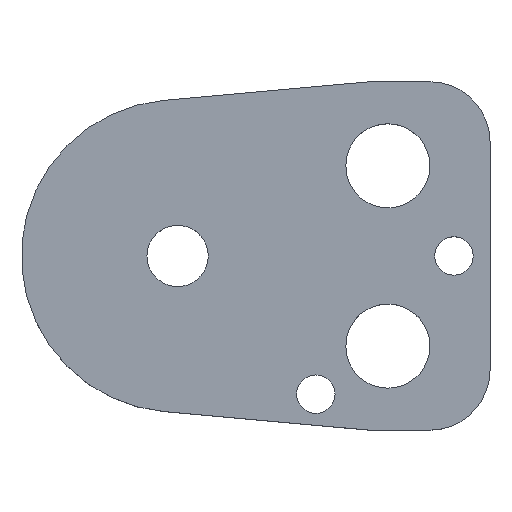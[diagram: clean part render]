
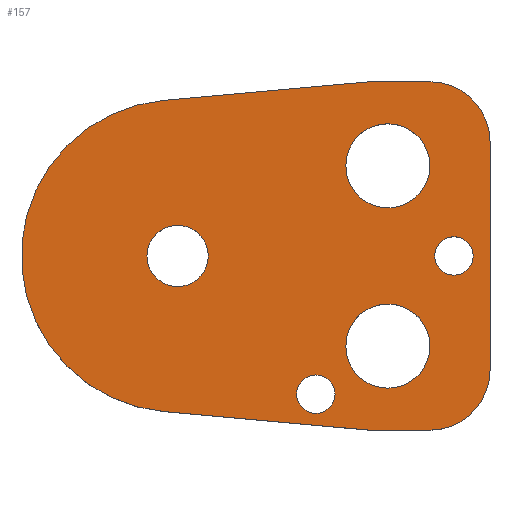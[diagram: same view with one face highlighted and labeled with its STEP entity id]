
A CAD part, top view. The second image highlights one B-rep face of the part: STEP entity #157.
In plain terms, the highlighted planar face has unit normal (0, 0, 1).
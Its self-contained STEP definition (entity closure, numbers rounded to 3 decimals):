
#103=FACE_BOUND('',#207,.T.);
#104=FACE_BOUND('',#208,.T.);
#105=FACE_BOUND('',#209,.T.);
#106=FACE_BOUND('',#210,.T.);
#107=FACE_BOUND('',#211,.T.);
#108=FACE_BOUND('',#212,.T.);
#122=CIRCLE('',#480,10.);
#124=CIRCLE('',#484,10.);
#127=CIRCLE('',#490,26.);
#138=CIRCLE('',#503,3.2);
#139=CIRCLE('',#504,3.2);
#140=CIRCLE('',#505,7.);
#141=CIRCLE('',#506,7.);
#142=CIRCLE('',#507,7.);
#143=CIRCLE('',#508,7.);
#144=CIRCLE('',#509,3.2);
#145=CIRCLE('',#510,3.2);
#146=CIRCLE('',#511,5.1);
#147=CIRCLE('',#512,5.1);
#157=ADVANCED_FACE('',(#103,#104,#105,#106,#107,#108),#174,.T.);
#174=PLANE('',#513);
#207=EDGE_LOOP('',(#273,#274,#275,#276,#277,#278,#279,#280));
#208=EDGE_LOOP('',(#281,#282));
#209=EDGE_LOOP('',(#283,#284));
#210=EDGE_LOOP('',(#285,#286));
#211=EDGE_LOOP('',(#287,#288));
#212=EDGE_LOOP('',(#289,#290));
#273=ORIENTED_EDGE('',*,*,#368,.T.);
#274=ORIENTED_EDGE('',*,*,#372,.T.);
#275=ORIENTED_EDGE('',*,*,#375,.T.);
#276=ORIENTED_EDGE('',*,*,#378,.T.);
#277=ORIENTED_EDGE('',*,*,#381,.T.);
#278=ORIENTED_EDGE('',*,*,#384,.T.);
#279=ORIENTED_EDGE('',*,*,#387,.T.);
#280=ORIENTED_EDGE('',*,*,#390,.T.);
#281=ORIENTED_EDGE('',*,*,#401,.T.);
#282=ORIENTED_EDGE('',*,*,#402,.T.);
#283=ORIENTED_EDGE('',*,*,#403,.T.);
#284=ORIENTED_EDGE('',*,*,#404,.T.);
#285=ORIENTED_EDGE('',*,*,#405,.T.);
#286=ORIENTED_EDGE('',*,*,#406,.T.);
#287=ORIENTED_EDGE('',*,*,#407,.T.);
#288=ORIENTED_EDGE('',*,*,#408,.T.);
#289=ORIENTED_EDGE('',*,*,#409,.T.);
#290=ORIENTED_EDGE('',*,*,#410,.T.);
#332=VERTEX_POINT('',#649);
#333=VERTEX_POINT('',#651);
#336=VERTEX_POINT('',#658);
#338=VERTEX_POINT('',#664);
#340=VERTEX_POINT('',#670);
#342=VERTEX_POINT('',#676);
#344=VERTEX_POINT('',#682);
#346=VERTEX_POINT('',#688);
#357=VERTEX_POINT('',#717);
#358=VERTEX_POINT('',#718);
#359=VERTEX_POINT('',#721);
#360=VERTEX_POINT('',#722);
#361=VERTEX_POINT('',#725);
#362=VERTEX_POINT('',#726);
#363=VERTEX_POINT('',#729);
#364=VERTEX_POINT('',#730);
#365=VERTEX_POINT('',#733);
#366=VERTEX_POINT('',#734);
#368=EDGE_CURVE('',#333,#332,#422,.T.);
#372=EDGE_CURVE('',#332,#336,#426,.T.);
#375=EDGE_CURVE('',#336,#338,#122,.T.);
#378=EDGE_CURVE('',#338,#340,#430,.T.);
#381=EDGE_CURVE('',#340,#342,#124,.T.);
#384=EDGE_CURVE('',#342,#344,#434,.T.);
#387=EDGE_CURVE('',#344,#346,#437,.T.);
#390=EDGE_CURVE('',#346,#333,#127,.T.);
#401=EDGE_CURVE('',#357,#358,#138,.T.);
#402=EDGE_CURVE('',#358,#357,#139,.T.);
#403=EDGE_CURVE('',#359,#360,#140,.T.);
#404=EDGE_CURVE('',#360,#359,#141,.T.);
#405=EDGE_CURVE('',#361,#362,#142,.T.);
#406=EDGE_CURVE('',#362,#361,#143,.T.);
#407=EDGE_CURVE('',#363,#364,#144,.T.);
#408=EDGE_CURVE('',#364,#363,#145,.T.);
#409=EDGE_CURVE('',#365,#366,#146,.T.);
#410=EDGE_CURVE('',#366,#365,#147,.T.);
#422=LINE('',#650,#450);
#426=LINE('',#659,#454);
#430=LINE('',#671,#458);
#434=LINE('',#683,#462);
#437=LINE('',#689,#465);
#450=VECTOR('',#527,1.);
#454=VECTOR('',#533,1.);
#458=VECTOR('',#545,1.);
#462=VECTOR('',#557,1.);
#465=VECTOR('',#562,1.);
#480=AXIS2_PLACEMENT_3D('',#665,#538,#539);
#484=AXIS2_PLACEMENT_3D('',#677,#550,#551);
#490=AXIS2_PLACEMENT_3D('',#693,#568,#569);
#503=AXIS2_PLACEMENT_3D('',#716,#594,#595);
#504=AXIS2_PLACEMENT_3D('',#719,#596,#597);
#505=AXIS2_PLACEMENT_3D('',#720,#598,#599);
#506=AXIS2_PLACEMENT_3D('',#723,#600,#601);
#507=AXIS2_PLACEMENT_3D('',#724,#602,#603);
#508=AXIS2_PLACEMENT_3D('',#727,#604,#605);
#509=AXIS2_PLACEMENT_3D('',#728,#606,#607);
#510=AXIS2_PLACEMENT_3D('',#731,#608,#609);
#511=AXIS2_PLACEMENT_3D('',#732,#610,#611);
#512=AXIS2_PLACEMENT_3D('',#735,#612,#613);
#513=AXIS2_PLACEMENT_3D('',#736,#614,#615);
#527=DIRECTION('',(0.996,-0.09,0.));
#533=DIRECTION('',(1.,0.,0.));
#538=DIRECTION('',(0.,0.,1.));
#539=DIRECTION('',(-0.707,0.707,0.));
#545=DIRECTION('',(0.,1.,0.));
#550=DIRECTION('',(0.,0.,1.));
#551=DIRECTION('',(-0.707,-0.707,0.));
#557=DIRECTION('',(-1.,0.,0.));
#562=DIRECTION('',(-0.996,-0.09,0.));
#568=DIRECTION('',(0.,0.,1.));
#569=DIRECTION('',(1.,0.,0.));
#594=DIRECTION('',(0.,0.,-1.));
#595=DIRECTION('',(-1.,0.,0.));
#596=DIRECTION('',(0.,0.,-1.));
#597=DIRECTION('',(1.,0.,0.));
#598=DIRECTION('',(0.,0.,-1.));
#599=DIRECTION('',(-1.,0.,0.));
#600=DIRECTION('',(0.,0.,-1.));
#601=DIRECTION('',(1.,0.,0.));
#602=DIRECTION('',(0.,0.,-1.));
#603=DIRECTION('',(-1.,0.,0.));
#604=DIRECTION('',(0.,0.,-1.));
#605=DIRECTION('',(1.,0.,0.));
#606=DIRECTION('',(0.,0.,-1.));
#607=DIRECTION('',(-1.,0.,0.));
#608=DIRECTION('',(0.,0.,-1.));
#609=DIRECTION('',(1.,0.,0.));
#610=DIRECTION('',(0.,0.,-1.));
#611=DIRECTION('',(-1.,0.,0.));
#612=DIRECTION('',(0.,0.,-1.));
#613=DIRECTION('',(1.,0.,0.));
#614=DIRECTION('',(0.,0.,1.));
#615=DIRECTION('',(0.996,-0.09,0.));
#649=CARTESIAN_POINT('',(32.,-29.,9.));
#650=CARTESIAN_POINT('',(32.,-29.,9.));
#651=CARTESIAN_POINT('',(-2.342,-25.894,9.));
#658=CARTESIAN_POINT('',(42.,-29.,9.));
#659=CARTESIAN_POINT('',(32.,-29.,9.));
#664=CARTESIAN_POINT('',(52.,-19.,9.));
#665=CARTESIAN_POINT('',(42.,-19.,9.));
#670=CARTESIAN_POINT('',(52.,19.,9.));
#671=CARTESIAN_POINT('',(52.,19.,9.));
#676=CARTESIAN_POINT('',(42.,29.,9.));
#677=CARTESIAN_POINT('',(42.,19.,9.));
#682=CARTESIAN_POINT('',(32.,29.,9.));
#683=CARTESIAN_POINT('',(32.,29.,9.));
#688=CARTESIAN_POINT('',(-2.342,25.894,9.));
#689=CARTESIAN_POINT('',(32.,29.,9.));
#693=CARTESIAN_POINT('',(0.,0.,9.));
#716=CARTESIAN_POINT('',(46.,0.,9.));
#717=CARTESIAN_POINT('',(46.,3.2,9.));
#718=CARTESIAN_POINT('',(46.,-3.2,9.));
#719=CARTESIAN_POINT('',(46.,0.,9.));
#720=CARTESIAN_POINT('',(35.,15.,9.));
#721=CARTESIAN_POINT('',(35.,22.,9.));
#722=CARTESIAN_POINT('',(35.,8.,9.));
#723=CARTESIAN_POINT('',(35.,15.,9.));
#724=CARTESIAN_POINT('',(35.,-15.,9.));
#725=CARTESIAN_POINT('',(35.,-8.,9.));
#726=CARTESIAN_POINT('',(35.,-22.,9.));
#727=CARTESIAN_POINT('',(35.,-15.,9.));
#728=CARTESIAN_POINT('',(23.,-23.,9.));
#729=CARTESIAN_POINT('',(23.,-19.8,9.));
#730=CARTESIAN_POINT('',(23.,-26.2,9.));
#731=CARTESIAN_POINT('',(23.,-23.,9.));
#732=CARTESIAN_POINT('',(0.,0.,9.));
#733=CARTESIAN_POINT('',(0.,5.1,9.));
#734=CARTESIAN_POINT('',(0.,-5.1,9.));
#735=CARTESIAN_POINT('',(0.,0.,9.));
#736=CARTESIAN_POINT('',(-2.342,-25.894,9.));
